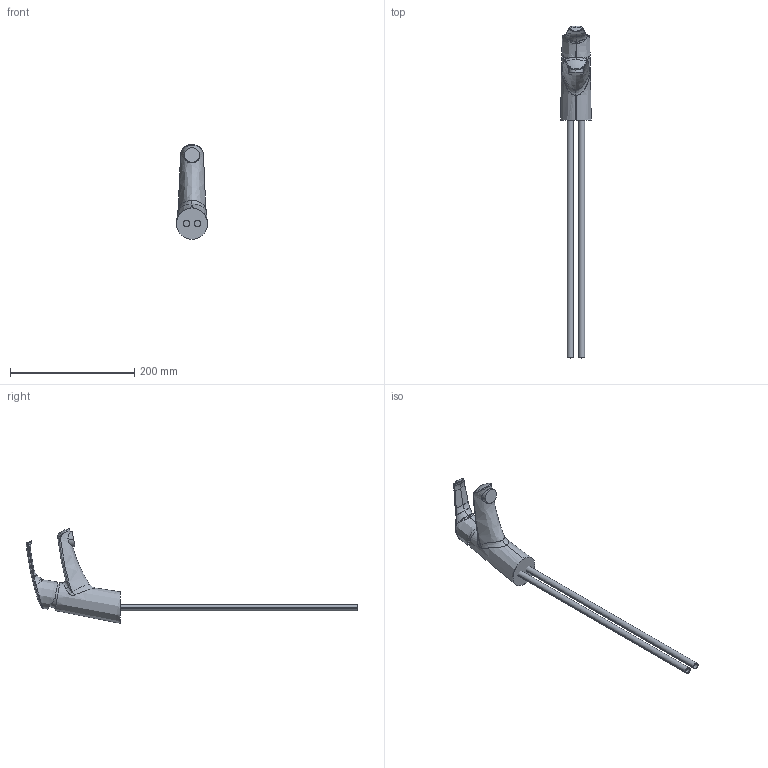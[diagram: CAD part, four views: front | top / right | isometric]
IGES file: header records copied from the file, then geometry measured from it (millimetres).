
Start section:  PTC IGES file: 67021_web.igs
Global section: file name: 67021_web.igs; native system: Creo Parametric by PTC Inc.; preprocessor: 2017380; author: jaj; organization: Unknown; date: 20180827.160210; units: millimetre
Bounding box: 49.71 x 534.2 x 152.51 mm (x, y, z)
Surface area: 92526.9 mm2 (no closed solid volume)
Topology: 0 solids, 0 shells, 119 faces, 634 edges, 690 vertices
Faces by surface type: bspline 97, revolution 22
